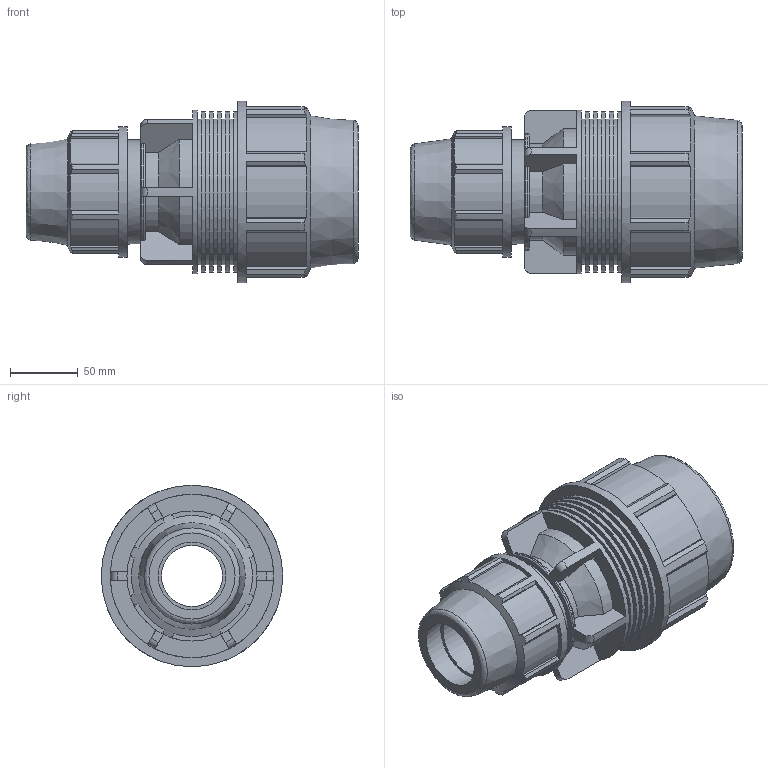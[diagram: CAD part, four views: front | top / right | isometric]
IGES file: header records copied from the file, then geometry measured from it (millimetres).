
Global section: file name: 0711060750500A.ipt; native system: Autodesk Inventor 2015; preprocessor: unknown; author: KIM; date: 20170608.042507; units: millimetre
Bounding box: 245 x 134 x 134 mm (x, y, z)
Volume: 1223054.2 mm3; surface area: 185940.1 mm2
Topology: 1 solids, 1 shells, 207 faces, 580 edges, 392 vertices
Faces by surface type: plane 123, cylinder 54, revolution 20, cone 10
Full cylindrical faces by diameter (mm): 76.8 x1, 96 x1, 107.2 x5, 118.188 x5, 120.6 x1, 134 x1
